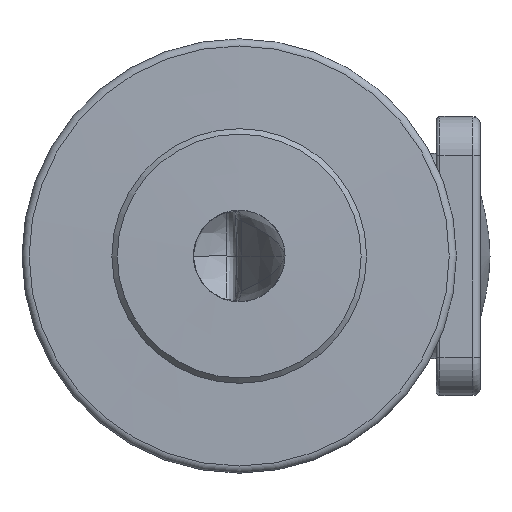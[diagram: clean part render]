
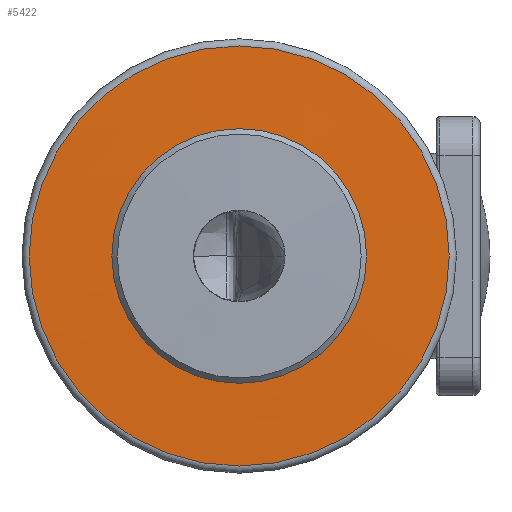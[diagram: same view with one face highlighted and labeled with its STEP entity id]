
A CAD part, front view. The second image highlights one B-rep face of the part: STEP entity #5422.
In plain terms, the highlighted conical face has half-angle 88.8 degrees and reference radius 59.25 mm.
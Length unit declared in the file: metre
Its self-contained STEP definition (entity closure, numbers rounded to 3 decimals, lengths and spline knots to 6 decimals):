
#722=CONICAL_SURFACE('',#5967,0.05925,1.55);
#803=FACE_OUTER_BOUND('',#1184,.T.);
#1184=EDGE_LOOP('',(#3819,#3820,#3821,#3822,#3823,#3824));
#1527=LINE('',#7899,#1687);
#1687=VECTOR('',#6743,0.05925);
#1917=CIRCLE('',#5959,0.034737);
#1918=CIRCLE('',#5960,0.034737);
#1924=CIRCLE('',#5968,0.057292);
#1925=CIRCLE('',#5969,0.057292);
#2220=VERTEX_POINT('',#7878);
#2221=VERTEX_POINT('',#7879);
#2227=VERTEX_POINT('',#7896);
#2228=VERTEX_POINT('',#7897);
#2792=EDGE_CURVE('',#2220,#2221,#1917,.T.);
#2793=EDGE_CURVE('',#2221,#2220,#1918,.T.);
#2801=EDGE_CURVE('',#2227,#2228,#1924,.T.);
#2802=EDGE_CURVE('',#2228,#2220,#1527,.T.);
#2803=EDGE_CURVE('',#2228,#2227,#1925,.T.);
#3819=ORIENTED_EDGE('',*,*,#2801,.T.);
#3820=ORIENTED_EDGE('',*,*,#2802,.T.);
#3821=ORIENTED_EDGE('',*,*,#2792,.T.);
#3822=ORIENTED_EDGE('',*,*,#2793,.T.);
#3823=ORIENTED_EDGE('',*,*,#2802,.F.);
#3824=ORIENTED_EDGE('',*,*,#2803,.T.);
#5422=ADVANCED_FACE('',(#803),#722,.T.);
#5959=AXIS2_PLACEMENT_3D('',#7880,#6721,#6722);
#5960=AXIS2_PLACEMENT_3D('',#7881,#6723,#6724);
#5967=AXIS2_PLACEMENT_3D('',#7895,#6739,#6740);
#5968=AXIS2_PLACEMENT_3D('',#7898,#6741,#6742);
#5969=AXIS2_PLACEMENT_3D('',#7900,#6744,#6745);
#6721=DIRECTION('center_axis',(0.,1.,0.));
#6722=DIRECTION('ref_axis',(0.,0.,-1.));
#6723=DIRECTION('center_axis',(0.,1.,0.));
#6724=DIRECTION('ref_axis',(0.,0.,-1.));
#6739=DIRECTION('center_axis',(0.,1.,0.));
#6740=DIRECTION('ref_axis',(0.,0.,1.));
#6741=DIRECTION('center_axis',(0.,-1.,0.));
#6742=DIRECTION('ref_axis',(0.,0.,-1.));
#6743=DIRECTION('',(0.,-0.021,1.));
#6744=DIRECTION('center_axis',(0.,-1.,0.));
#6745=DIRECTION('ref_axis',(0.,0.,-1.));
#7878=CARTESIAN_POINT('',(0.452737,-0.094513,-0.034737));
#7879=CARTESIAN_POINT('',(0.452737,-0.094513,0.034737));
#7880=CARTESIAN_POINT('Origin',(0.452737,-0.094513,0.));
#7881=CARTESIAN_POINT('Origin',(0.452737,-0.094513,0.));
#7895=CARTESIAN_POINT('Origin',(0.452737,-0.094,0.));
#7896=CARTESIAN_POINT('',(0.452737,-0.094041,0.057292));
#7897=CARTESIAN_POINT('',(0.452737,-0.094041,-0.057292));
#7898=CARTESIAN_POINT('Origin',(0.452737,-0.094041,0.));
#7899=CARTESIAN_POINT('',(0.452737,-0.094,-0.05925));
#7900=CARTESIAN_POINT('Origin',(0.452737,-0.094041,0.));
